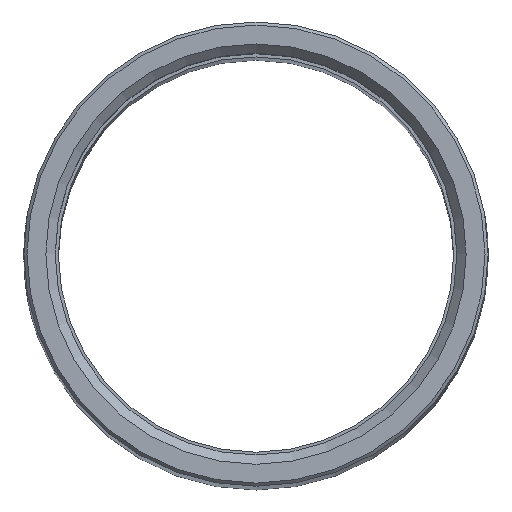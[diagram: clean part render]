
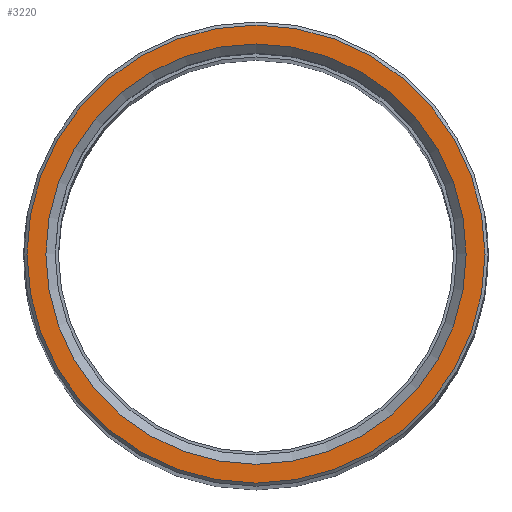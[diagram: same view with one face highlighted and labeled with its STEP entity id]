
A CAD part, top view. The second image highlights one B-rep face of the part: STEP entity #3220.
In plain terms, the highlighted planar face has unit normal (0, 0, 1).
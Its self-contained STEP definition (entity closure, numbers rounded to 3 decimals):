
#36=FACE_BOUND('',#692,.T.);
#343=PLANE('',#3401);
#504=FACE_OUTER_BOUND('',#691,.T.);
#691=EDGE_LOOP('',(#2812));
#692=EDGE_LOOP('',(#2813));
#1196=CIRCLE('',#3398,13.559);
#1199=CIRCLE('',#3402,14.775);
#1494=VERTEX_POINT('',#7729);
#1497=VERTEX_POINT('',#7737);
#1938=EDGE_CURVE('',#1494,#1494,#1196,.T.);
#1942=EDGE_CURVE('',#1497,#1497,#1199,.T.);
#2812=ORIENTED_EDGE('',*,*,#1942,.F.);
#2813=ORIENTED_EDGE('',*,*,#1938,.F.);
#3220=ADVANCED_FACE('',(#504,#36),#343,.F.);
#3398=AXIS2_PLACEMENT_3D('',#7730,#3919,#3920);
#3401=AXIS2_PLACEMENT_3D('',#7736,#3926,#3927);
#3402=AXIS2_PLACEMENT_3D('',#7738,#3928,#3929);
#3919=DIRECTION('center_axis',(0.,0.,1.));
#3920=DIRECTION('ref_axis',(-1.,0.,0.));
#3926=DIRECTION('center_axis',(0.,0.,-1.));
#3927=DIRECTION('ref_axis',(-1.,0.,0.));
#3928=DIRECTION('center_axis',(0.,0.,-1.));
#3929=DIRECTION('ref_axis',(-1.,0.,0.));
#7729=CARTESIAN_POINT('',(13.559,0.,140.));
#7730=CARTESIAN_POINT('Origin',(0.,0.,140.));
#7736=CARTESIAN_POINT('Origin',(0.,0.,140.));
#7737=CARTESIAN_POINT('',(14.775,0.,140.));
#7738=CARTESIAN_POINT('Origin',(0.,0.,140.));
